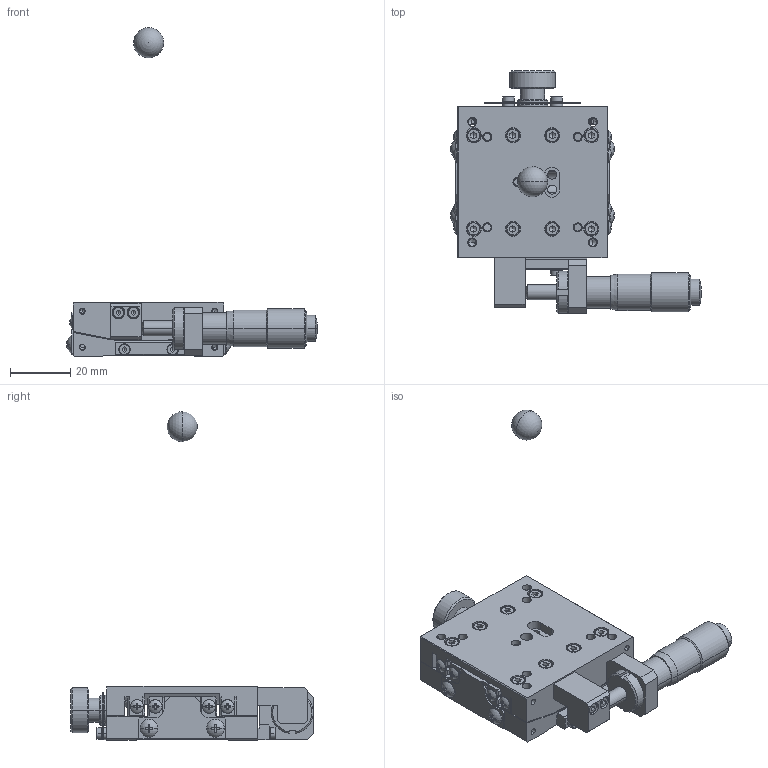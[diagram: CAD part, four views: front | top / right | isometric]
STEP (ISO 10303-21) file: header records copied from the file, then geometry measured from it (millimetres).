
FILE_DESCRIPTION (( 'STEP AP214' ), '1' );
FILE_NAME ('ST05A-S1B.STEP', '2007-01-19T00:28:52', ( ' ' ), ( ' ' ), 'SwSTEP 2.0', 'SolidWorks 2006052', '' );
FILE_SCHEMA (( 'AUTOMOTIVE_DESIGN' ));
Length unit declared in the file: millimetre
Products named in the file (5): ST05A-S1B-Part-1; MICROMETERHEAD(MHS4-13)spindle-5; 002580-1010(3D); 002580-1020(3D); ST05A-S1B
Assembly tree (4 placements, depth 2):
  ST05A-S1B
    002580-1020(3D)
    ST05A-S1B-Part-1
    MICROMETERHEAD(MHS4-13)spindle-5
    002580-1010(3D)
Bounding box: 83.18 x 80.5 x 109 mm (x, y, z)
Volume: 47056.3 mm3; surface area: 32676.3 mm2
Topology: 4 solids, 37 shells, 1767 faces, 4299 edges, 2574 vertices
Faces by surface type: plane 767, cylinder 565, cone 337, torus 68, sphere 30
Entity records: 54493 total; most frequent: CARTESIAN_POINT 12868, DIRECTION 9038, ORIENTED_EDGE 8388, EDGE_CURVE 4194, AXIS2_PLACEMENT_3D 3490, VERTEX_POINT 2571, VECTOR 2058, LINE 2058
